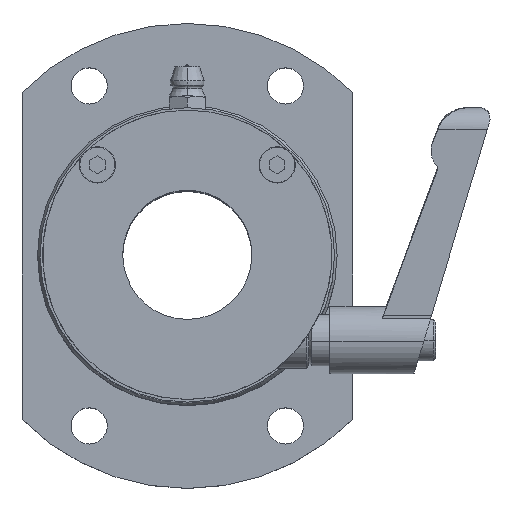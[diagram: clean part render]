
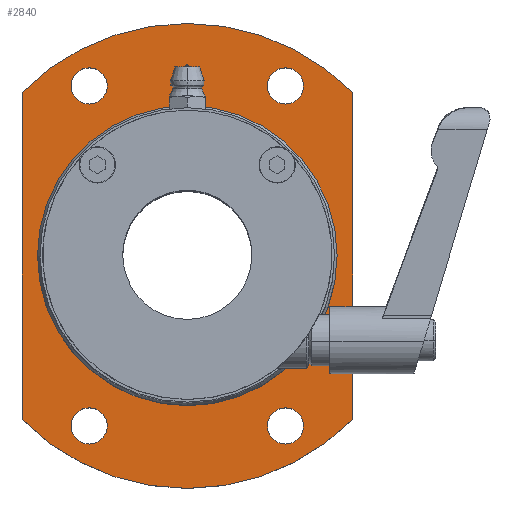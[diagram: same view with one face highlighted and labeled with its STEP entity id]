
A CAD part, top view. The second image highlights one B-rep face of the part: STEP entity #2840.
In plain terms, the highlighted planar face has unit normal (0, 0, 1).
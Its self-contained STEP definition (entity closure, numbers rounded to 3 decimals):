
#81 = DIRECTION ( 'NONE',  ( 1., 0., 0. ) ) ;
#158 = DIRECTION ( 'NONE',  ( 0., 0., -1. ) ) ;
#200 = AXIS2_PLACEMENT_3D ( 'NONE', #9508, #6872, #10466 ) ;
#206 = CARTESIAN_POINT ( 'NONE',  ( -34.271, 32.419, 89. ) ) ;
#323 = VERTEX_POINT ( 'NONE', #10271 ) ;
#375 = DIRECTION ( 'NONE',  ( 0., 1., 0. ) ) ;
#378 = FACE_OUTER_BOUND ( 'NONE', #7967, .T. ) ;
#434 = DIRECTION ( 'NONE',  ( 0., 0., -1. ) ) ;
#686 = DIRECTION ( 'NONE',  ( 0., 0., -1. ) ) ;
#798 = DIRECTION ( 'NONE',  ( 0., 1., 0. ) ) ;
#800 = EDGE_LOOP ( 'NONE', ( #870, #6900 ) ) ;
#870 = ORIENTED_EDGE ( 'NONE', *, *, #2558, .T. ) ;
#1046 = DIRECTION ( 'NONE',  ( 1., 0., 0. ) ) ;
#1155 = AXIS2_PLACEMENT_3D ( 'NONE', #2732, #158, #6528 ) ;
#1159 = CIRCLE ( 'NONE', #5129, 45. ) ;
#1202 = EDGE_CURVE ( 'NONE', #2440, #10183, #2372, .T. ) ;
#1318 = DIRECTION ( 'NONE',  ( 0., 0., -1. ) ) ;
#1521 = DIRECTION ( 'NONE',  ( 0., 1., 0. ) ) ;
#1753 = CARTESIAN_POINT ( 'NONE',  ( -34.271, -33.399, 89. ) ) ;
#1784 = EDGE_CURVE ( 'NONE', #323, #8555, #8029, .T. ) ;
#1806 = DIRECTION ( 'NONE',  ( 0., 0., -1. ) ) ;
#1834 = VERTEX_POINT ( 'NONE', #3828 ) ;
#1881 = CARTESIAN_POINT ( 'NONE',  ( -37.771, -33.399, 89. ) ) ;
#2077 = AXIS2_PLACEMENT_3D ( 'NONE', #7511, #4986, #5857 ) ;
#2091 = AXIS2_PLACEMENT_3D ( 'NONE', #10621, #11487, #10677 ) ;
#2296 = DIRECTION ( 'NONE',  ( 0., 0., -1. ) ) ;
#2372 = CIRCLE ( 'NONE', #11563, 45. ) ;
#2440 = VERTEX_POINT ( 'NONE', #9884 ) ;
#2441 = CARTESIAN_POINT ( 'NONE',  ( -47.271, 31.148, 89. ) ) ;
#2470 = CARTESIAN_POINT ( 'NONE',  ( -15.271, -0.49, 89. ) ) ;
#2486 = VERTEX_POINT ( 'NONE', #5592 ) ;
#2497 = AXIS2_PLACEMENT_3D ( 'NONE', #10702, #7349, #1046 ) ;
#2558 = EDGE_CURVE ( 'NONE', #3229, #11402, #6784, .T. ) ;
#2572 = EDGE_LOOP ( 'NONE', ( #8932, #3080 ) ) ;
#2619 = LINE ( 'NONE', #2441, #8914 ) ;
#2652 = DIRECTION ( 'NONE',  ( 0., 0., -1. ) ) ;
#2732 = CARTESIAN_POINT ( 'NONE',  ( 3.729, 32.419, 89. ) ) ;
#2741 = DIRECTION ( 'NONE',  ( 1., 0., 0. ) ) ;
#2755 = CARTESIAN_POINT ( 'NONE',  ( -34.271, -33.399, 89. ) ) ;
#2840 = ADVANCED_FACE ( 'NONE', ( #378, #4850, #3046, #9370, #5912, #9266 ), #11074, .T. ) ;
#2966 = CARTESIAN_POINT ( 'NONE',  ( -30.771, 32.419, 89. ) ) ;
#3002 = CARTESIAN_POINT ( 'NONE',  ( -15.271, -0.49, 89. ) ) ;
#3046 = FACE_BOUND ( 'NONE', #800, .T. ) ;
#3080 = ORIENTED_EDGE ( 'NONE', *, *, #7072, .T. ) ;
#3218 = DIRECTION ( 'NONE',  ( 0., 1., 0. ) ) ;
#3229 = VERTEX_POINT ( 'NONE', #2966 ) ;
#3253 = CIRCLE ( 'NONE', #6796, 29. ) ;
#3529 = EDGE_CURVE ( 'NONE', #8555, #323, #9233, .T. ) ;
#3748 = EDGE_LOOP ( 'NONE', ( #6278, #4126 ) ) ;
#3786 = AXIS2_PLACEMENT_3D ( 'NONE', #11247, #434, #3218 ) ;
#3828 = CARTESIAN_POINT ( 'NONE',  ( 7.229, -33.399, 89. ) ) ;
#4126 = ORIENTED_EDGE ( 'NONE', *, *, #6119, .T. ) ;
#4279 = CARTESIAN_POINT ( 'NONE',  ( -15.271, -0.49, 89. ) ) ;
#4394 = CARTESIAN_POINT ( 'NONE',  ( 7.229, 32.419, 89. ) ) ;
#4409 = DIRECTION ( 'NONE',  ( 1., 0., 0. ) ) ;
#4529 = ORIENTED_EDGE ( 'NONE', *, *, #10114, .T. ) ;
#4762 = DIRECTION ( 'NONE',  ( 0., 1., 0. ) ) ;
#4797 = LINE ( 'NONE', #5528, #5891 ) ;
#4850 = FACE_BOUND ( 'NONE', #3748, .T. ) ;
#4901 = ORIENTED_EDGE ( 'NONE', *, *, #1784, .T. ) ;
#4909 = DIRECTION ( 'NONE',  ( 1., 0., 0. ) ) ;
#4986 = DIRECTION ( 'NONE',  ( 0., 0., 1. ) ) ;
#5044 = CARTESIAN_POINT ( 'NONE',  ( 0.229, -33.399, 89. ) ) ;
#5112 = AXIS2_PLACEMENT_3D ( 'NONE', #1753, #1806, #81 ) ;
#5129 = AXIS2_PLACEMENT_3D ( 'NONE', #3002, #2296, #4762 ) ;
#5296 = VERTEX_POINT ( 'NONE', #10620 ) ;
#5450 = DIRECTION ( 'NONE',  ( 0., 0., -1. ) ) ;
#5455 = CARTESIAN_POINT ( 'NONE',  ( -47.271, 31.148, 89. ) ) ;
#5528 = CARTESIAN_POINT ( 'NONE',  ( 16.729, -32.129, 89. ) ) ;
#5592 = CARTESIAN_POINT ( 'NONE',  ( 16.729, 31.148, 89. ) ) ;
#5594 = EDGE_CURVE ( 'NONE', #9254, #2486, #7104, .T. ) ;
#5747 = EDGE_CURVE ( 'NONE', #11402, #3229, #10097, .T. ) ;
#5857 = DIRECTION ( 'NONE',  ( 1., 0., 0. ) ) ;
#5891 = VECTOR ( 'NONE', #375, 1000. ) ;
#5912 = FACE_BOUND ( 'NONE', #2572, .T. ) ;
#6119 = EDGE_CURVE ( 'NONE', #8127, #1834, #11647, .T. ) ;
#6278 = ORIENTED_EDGE ( 'NONE', *, *, #8533, .T. ) ;
#6528 = DIRECTION ( 'NONE',  ( 1., 0., 0. ) ) ;
#6538 = ORIENTED_EDGE ( 'NONE', *, *, #3529, .T. ) ;
#6561 = AXIS2_PLACEMENT_3D ( 'NONE', #7207, #5450, #2741 ) ;
#6784 = CIRCLE ( 'NONE', #200, 3.5 ) ;
#6796 = AXIS2_PLACEMENT_3D ( 'NONE', #4279, #686, #798 ) ;
#6827 = CARTESIAN_POINT ( 'NONE',  ( -30.771, -33.399, 89. ) ) ;
#6872 = DIRECTION ( 'NONE',  ( 0., 0., -1. ) ) ;
#6900 = ORIENTED_EDGE ( 'NONE', *, *, #5747, .T. ) ;
#7029 = CIRCLE ( 'NONE', #8510, 3.5 ) ;
#7054 = VERTEX_POINT ( 'NONE', #7938 ) ;
#7072 = EDGE_CURVE ( 'NONE', #10627, #11238, #10557, .T. ) ;
#7103 = ORIENTED_EDGE ( 'NONE', *, *, #7952, .T. ) ;
#7104 = CIRCLE ( 'NONE', #9533, 45. ) ;
#7207 = CARTESIAN_POINT ( 'NONE',  ( 3.729, -33.399, 89. ) ) ;
#7349 = DIRECTION ( 'NONE',  ( 0., 0., -1. ) ) ;
#7511 = CARTESIAN_POINT ( 'NONE',  ( -15.271, 36.51, 89. ) ) ;
#7763 = DIRECTION ( 'NONE',  ( 0., 0., -1. ) ) ;
#7834 = EDGE_CURVE ( 'NONE', #11238, #10627, #7029, .T. ) ;
#7852 = EDGE_LOOP ( 'NONE', ( #4529, #8001 ) ) ;
#7938 = CARTESIAN_POINT ( 'NONE',  ( -15.271, -29.49, 89. ) ) ;
#7952 = EDGE_CURVE ( 'NONE', #2440, #2486, #4797, .T. ) ;
#7967 = EDGE_LOOP ( 'NONE', ( #7103, #11620, #9269, #9006, #11448 ) ) ;
#8001 = ORIENTED_EDGE ( 'NONE', *, *, #8918, .T. ) ;
#8029 = CIRCLE ( 'NONE', #2497, 3.5 ) ;
#8127 = VERTEX_POINT ( 'NONE', #5044 ) ;
#8149 = CARTESIAN_POINT ( 'NONE',  ( -15.271, 44.51, 89. ) ) ;
#8283 = CIRCLE ( 'NONE', #3786, 29. ) ;
#8510 = AXIS2_PLACEMENT_3D ( 'NONE', #2755, #8988, #4409 ) ;
#8533 = EDGE_CURVE ( 'NONE', #1834, #8127, #10348, .T. ) ;
#8555 = VERTEX_POINT ( 'NONE', #4394 ) ;
#8857 = CARTESIAN_POINT ( 'NONE',  ( -47.271, -32.129, 89. ) ) ;
#8914 = VECTOR ( 'NONE', #10664, 1000. ) ;
#8918 = EDGE_CURVE ( 'NONE', #7054, #5296, #3253, .T. ) ;
#8932 = ORIENTED_EDGE ( 'NONE', *, *, #7834, .T. ) ;
#8988 = DIRECTION ( 'NONE',  ( 0., 0., -1. ) ) ;
#9006 = ORIENTED_EDGE ( 'NONE', *, *, #9478, .T. ) ;
#9233 = CIRCLE ( 'NONE', #1155, 3.5 ) ;
#9254 = VERTEX_POINT ( 'NONE', #8149 ) ;
#9266 = FACE_BOUND ( 'NONE', #7852, .T. ) ;
#9269 = ORIENTED_EDGE ( 'NONE', *, *, #10676, .F. ) ;
#9370 = FACE_BOUND ( 'NONE', #9471, .T. ) ;
#9371 = VERTEX_POINT ( 'NONE', #5455 ) ;
#9471 = EDGE_LOOP ( 'NONE', ( #6538, #4901 ) ) ;
#9478 = EDGE_CURVE ( 'NONE', #9371, #10183, #2619, .T. ) ;
#9508 = CARTESIAN_POINT ( 'NONE',  ( -34.271, 32.419, 89. ) ) ;
#9533 = AXIS2_PLACEMENT_3D ( 'NONE', #10694, #2652, #9829 ) ;
#9728 = AXIS2_PLACEMENT_3D ( 'NONE', #206, #1318, #4909 ) ;
#9775 = CARTESIAN_POINT ( 'NONE',  ( -37.771, 32.419, 89. ) ) ;
#9829 = DIRECTION ( 'NONE',  ( 0., 1., 0. ) ) ;
#9884 = CARTESIAN_POINT ( 'NONE',  ( 16.729, -32.129, 89. ) ) ;
#10097 = CIRCLE ( 'NONE', #9728, 3.5 ) ;
#10114 = EDGE_CURVE ( 'NONE', #5296, #7054, #8283, .T. ) ;
#10183 = VERTEX_POINT ( 'NONE', #8857 ) ;
#10271 = CARTESIAN_POINT ( 'NONE',  ( 0.229, 32.419, 89. ) ) ;
#10348 = CIRCLE ( 'NONE', #2091, 3.5 ) ;
#10466 = DIRECTION ( 'NONE',  ( 1., 0., 0. ) ) ;
#10557 = CIRCLE ( 'NONE', #5112, 3.5 ) ;
#10620 = CARTESIAN_POINT ( 'NONE',  ( -15.271, 28.51, 89. ) ) ;
#10621 = CARTESIAN_POINT ( 'NONE',  ( 3.729, -33.399, 89. ) ) ;
#10627 = VERTEX_POINT ( 'NONE', #1881 ) ;
#10664 = DIRECTION ( 'NONE',  ( 0., -1., 0. ) ) ;
#10676 = EDGE_CURVE ( 'NONE', #9371, #9254, #1159, .T. ) ;
#10677 = DIRECTION ( 'NONE',  ( 1., 0., 0. ) ) ;
#10694 = CARTESIAN_POINT ( 'NONE',  ( -15.271, -0.49, 89. ) ) ;
#10702 = CARTESIAN_POINT ( 'NONE',  ( 3.729, 32.419, 89. ) ) ;
#11074 = PLANE ( 'NONE',  #2077 ) ;
#11238 = VERTEX_POINT ( 'NONE', #6827 ) ;
#11247 = CARTESIAN_POINT ( 'NONE',  ( -15.271, -0.49, 89. ) ) ;
#11402 = VERTEX_POINT ( 'NONE', #9775 ) ;
#11448 = ORIENTED_EDGE ( 'NONE', *, *, #1202, .F. ) ;
#11487 = DIRECTION ( 'NONE',  ( 0., 0., -1. ) ) ;
#11563 = AXIS2_PLACEMENT_3D ( 'NONE', #2470, #7763, #1521 ) ;
#11620 = ORIENTED_EDGE ( 'NONE', *, *, #5594, .F. ) ;
#11647 = CIRCLE ( 'NONE', #6561, 3.5 ) ;
